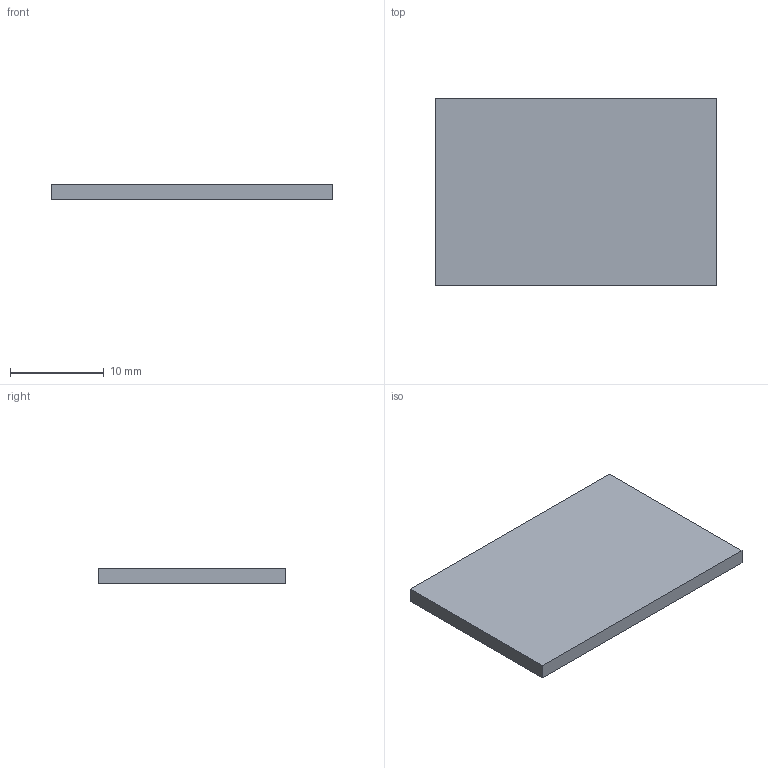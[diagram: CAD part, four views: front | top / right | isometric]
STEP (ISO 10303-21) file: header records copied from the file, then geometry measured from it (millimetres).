
FILE_DESCRIPTION(('Open CASCADE Model'),'2;1');
FILE_NAME('Open CASCADE Shape Model','2026-09-29T12:47:59',('Author'),( 'Open CASCADE'),'Open CASCADE STEP processor 7.9','Open CASCADE 7.9' ,'Unknown');
FILE_SCHEMA(('AUTOMOTIVE_DESIGN { 1 0 10303 214 1 1 1 1 }'));
Length unit declared in the file: millimetre
Products named in the file (1): Open CASCADE STEP translator 7.9 5
Bounding box: 30 x 20 x 1.6 mm (x, y, z)
Volume: 960 mm3; surface area: 1360 mm2
Topology: 1 solids, 1 shells, 6 faces, 12 edges, 8 vertices
Faces by surface type: plane 6
Entity records: 322 total; most frequent: CARTESIAN_POINT 51, DIRECTION 50, LINE 36, VECTOR 36, ORIENTED_EDGE 24, PCURVE 24, DEFINITIONAL_REPRESENTATION 24, EDGE_CURVE 12
